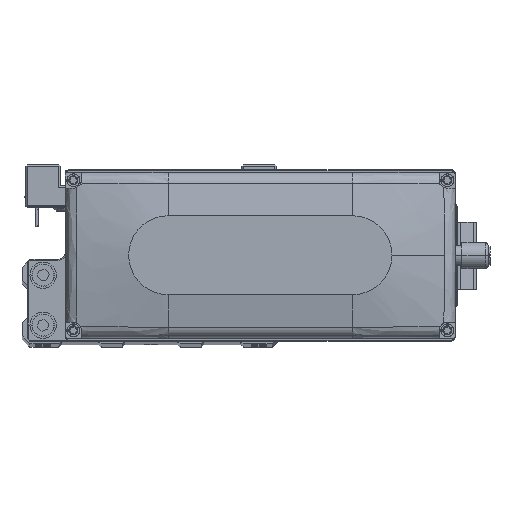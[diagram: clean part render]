
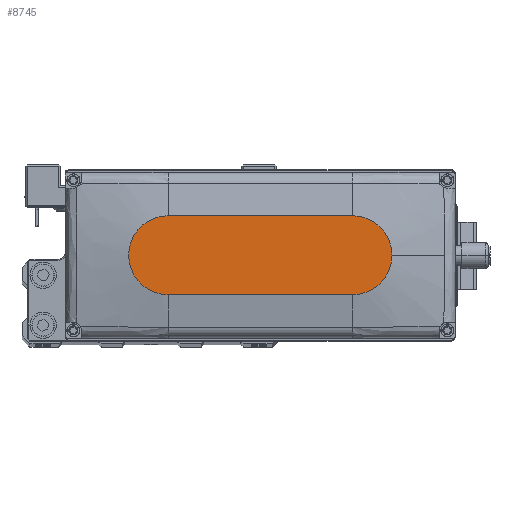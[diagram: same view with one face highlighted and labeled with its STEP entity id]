
A CAD part, top view. The second image highlights one B-rep face of the part: STEP entity #8745.
In plain terms, the highlighted planar face has unit normal (0, 0, 1).
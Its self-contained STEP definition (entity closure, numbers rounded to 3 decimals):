
#50 = ORIENTED_EDGE ( 'NONE', *, *, #32399, .T. ) ;
#249 = CARTESIAN_POINT ( 'NONE',  ( -35., -15., 35. ) ) ;
#563 = CARTESIAN_POINT ( 'NONE',  ( -35., 0., 35. ) ) ;
#565 = VERTEX_POINT ( 'NONE', #249 ) ;
#1059 = FACE_OUTER_BOUND ( 'NONE', #4462, .T. ) ;
#1414 = EDGE_CURVE ( 'NONE', #565, #14914, #41732, .T. ) ;
#4462 = EDGE_LOOP ( 'NONE', ( #23819, #7839, #30470, #50, #35063 ) ) ;
#4756 = EDGE_CURVE ( 'NONE', #38059, #19903, #5828, .T. ) ;
#5828 = CIRCLE ( 'NONE', #29654, 15. ) ;
#7839 = ORIENTED_EDGE ( 'NONE', *, *, #29179, .T. ) ;
#8745 = ADVANCED_FACE ( 'NONE', ( #1059 ), #14115, .T. ) ;
#9298 = AXIS2_PLACEMENT_3D ( 'NONE', #14600, #27569, #40568 ) ;
#10497 = VERTEX_POINT ( 'NONE', #29771 ) ;
#10896 = DIRECTION ( 'NONE',  ( 1., 0., 0. ) ) ;
#11125 = LINE ( 'NONE', #24119, #35689 ) ;
#12553 = CARTESIAN_POINT ( 'NONE',  ( -35., -15., 35. ) ) ;
#12798 = CARTESIAN_POINT ( 'NONE',  ( 35., 15., 35. ) ) ;
#13210 = CARTESIAN_POINT ( 'NONE',  ( 35., 0., 35. ) ) ;
#13620 = DIRECTION ( 'NONE',  ( 0., 0., 1. ) ) ;
#14115 = PLANE ( 'NONE',  #25245 ) ;
#14600 = CARTESIAN_POINT ( 'NONE',  ( 35., 0., 35. ) ) ;
#14914 = VERTEX_POINT ( 'NONE', #14932 ) ;
#14932 = CARTESIAN_POINT ( 'NONE',  ( 35., -15., 35. ) ) ;
#17312 = AXIS2_PLACEMENT_3D ( 'NONE', #563, #13620, #26584 ) ;
#19903 = VERTEX_POINT ( 'NONE', #12798 ) ;
#23819 = ORIENTED_EDGE ( 'NONE', *, *, #29582, .T. ) ;
#24119 = CARTESIAN_POINT ( 'NONE',  ( -35., 15., 35. ) ) ;
#25245 = AXIS2_PLACEMENT_3D ( 'NONE', #27077, #40067, #10896 ) ;
#25542 = DIRECTION ( 'NONE',  ( 1., 0., 0. ) ) ;
#26188 = DIRECTION ( 'NONE',  ( 0., 0., 1. ) ) ;
#26584 = DIRECTION ( 'NONE',  ( 1., 0., 0. ) ) ;
#27077 = CARTESIAN_POINT ( 'NONE',  ( 0., 0., 35. ) ) ;
#27569 = DIRECTION ( 'NONE',  ( 0., 0., 1. ) ) ;
#27650 = CIRCLE ( 'NONE', #9298, 15. ) ;
#29179 = EDGE_CURVE ( 'NONE', #10497, #565, #35661, .T. ) ;
#29582 = EDGE_CURVE ( 'NONE', #19903, #10497, #11125, .T. ) ;
#29654 = AXIS2_PLACEMENT_3D ( 'NONE', #13210, #26188, #39181 ) ;
#29771 = CARTESIAN_POINT ( 'NONE',  ( -35., 15., 35. ) ) ;
#30470 = ORIENTED_EDGE ( 'NONE', *, *, #1414, .T. ) ;
#32399 = EDGE_CURVE ( 'NONE', #14914, #38059, #27650, .T. ) ;
#35063 = ORIENTED_EDGE ( 'NONE', *, *, #4756, .T. ) ;
#35617 = CARTESIAN_POINT ( 'NONE',  ( 50., 0., 35. ) ) ;
#35661 = CIRCLE ( 'NONE', #17312, 15. ) ;
#35689 = VECTOR ( 'NONE', #37112, 1000. ) ;
#37112 = DIRECTION ( 'NONE',  ( -1., 0., 0. ) ) ;
#37812 = VECTOR ( 'NONE', #25542, 1000. ) ;
#38059 = VERTEX_POINT ( 'NONE', #35617 ) ;
#39181 = DIRECTION ( 'NONE',  ( 1., 0., 0. ) ) ;
#40067 = DIRECTION ( 'NONE',  ( 0., 0., 1. ) ) ;
#40568 = DIRECTION ( 'NONE',  ( 1., 0., 0. ) ) ;
#41732 = LINE ( 'NONE', #12553, #37812 ) ;
